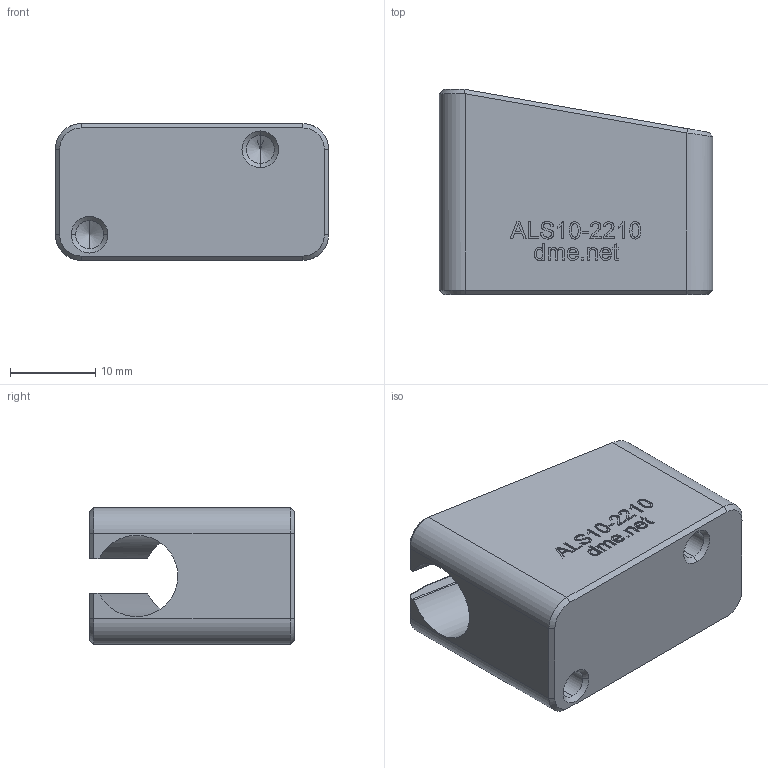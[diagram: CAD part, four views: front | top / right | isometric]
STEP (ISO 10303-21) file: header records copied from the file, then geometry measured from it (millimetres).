
FILE_DESCRIPTION (( 'STEP AP203' ), '1' );
FILE_NAME ('ALS10-2210.STEP', '2021-01-10T20:43:17', ( '' ), ( '' ), 'SwSTEP 2.0', 'SolidWorks 2020', '' );
FILE_SCHEMA (( 'CONFIG_CONTROL_DESIGN' ));
Length unit declared in the file: millimetre
Products named in the file (1): ALS10-2210
Bounding box: 32 x 24 x 16 mm (x, y, z)
Volume: 8280.8 mm3; surface area: 3763.3 mm2
Topology: 1 solids, 1 shells, 265 faces, 696 edges, 454 vertices
Faces by surface type: plane 131, bspline 105, cylinder 15, cone 14
Entity records: 13727 total; most frequent: CARTESIAN_POINT 7887, ORIENTED_EDGE 1384, DIRECTION 814, EDGE_CURVE 692, VERTEX_POINT 454, LINE 440, VECTOR 440, EDGE_LOOP 290
